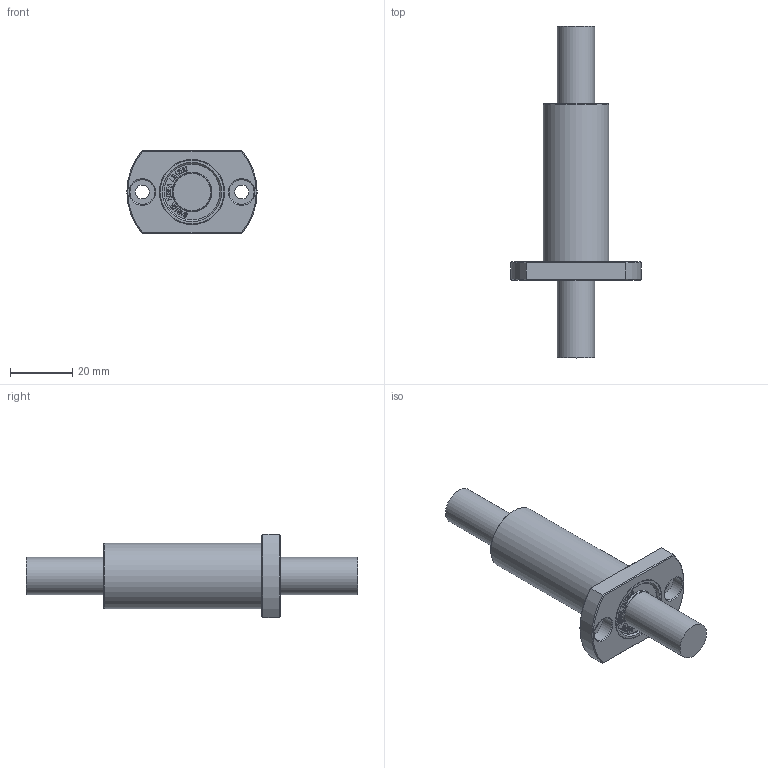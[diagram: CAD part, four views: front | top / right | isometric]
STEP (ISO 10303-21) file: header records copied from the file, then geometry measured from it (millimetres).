
FILE_DESCRIPTION(/* description */ (''),/* implementation_level */ '2;1');
FILE_NAME(/* name */ 'W:\(01) 2024년 홈페이지 CAD파일 최신화\LMH_L\IPT\LMH12LUU.stp',/* time_stamp */ '2025-01-23T10:14:42+09:00',/* author */ ('서우현'),/* organization */ (''),/* preprocessor_version */ 'ST-DEVELOPER v17.2',/* originating_system */ 'Autodesk Inventor 2019',/* authorisation */ '');
FILE_SCHEMA (('AUTOMOTIVE_DESIGN { 1 0 10303 214 3 1 1 }'));
Length unit declared in the file: millimetre
Products named in the file (1): LM5
Bounding box: 42 x 107 x 27 mm (x, y, z)
Volume: 28898.7 mm3; surface area: 8376.3 mm2
Topology: 1 solids, 1 shells, 842 faces, 2372 edges, 1584 vertices
Faces by surface type: bspline 580, plane 236, cone 12, cylinder 12, torus 2
Full cylindrical faces by diameter (mm): 4.5 x2, 8 x2, 12 x2, 18 x2, 21 x2
Entity records: 28686 total; most frequent: CARTESIAN_POINT 10035, ORIENTED_EDGE 4744, EDGE_CURVE 2372, DIRECTION 1796, VERTEX_POINT 1584, B_SPLINE_CURVE_WITH_KNOTS 1160, LINE 1138, VECTOR 1138
